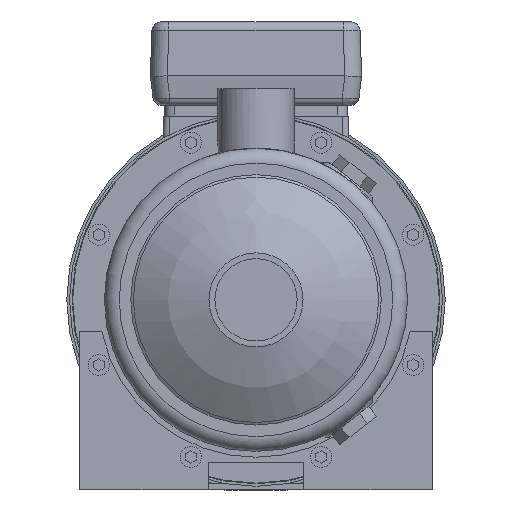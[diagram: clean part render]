
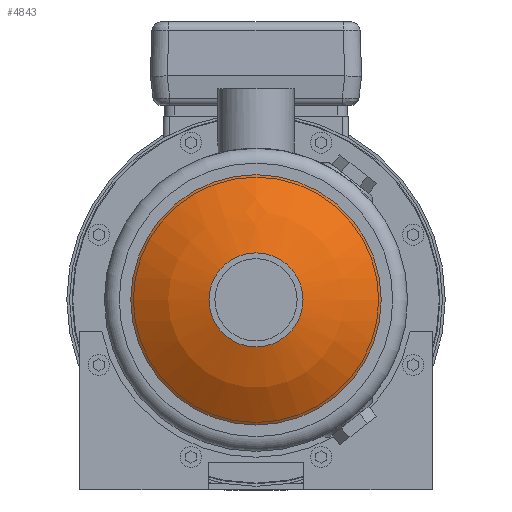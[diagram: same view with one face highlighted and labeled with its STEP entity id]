
A CAD part, left-side view. The second image highlights one B-rep face of the part: STEP entity #4843.
In plain terms, the highlighted spherical face has radius 100 mm.
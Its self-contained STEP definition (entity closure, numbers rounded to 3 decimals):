
#87=SPHERICAL_SURFACE('',#6501,100.);
#1102=ORIENTED_EDGE('',*,*,#2443,.T.);
#1103=ORIENTED_EDGE('',*,*,#2442,.F.);
#2442=EDGE_CURVE('',#3117,#3117,#3579,.T.);
#2443=EDGE_CURVE('',#3118,#3118,#3580,.T.);
#3117=VERTEX_POINT('',#8691);
#3118=VERTEX_POINT('',#8694);
#3579=CIRCLE('',#6500,22.25);
#3580=CIRCLE('',#6502,59.25);
#3802=EDGE_LOOP('',(#1102));
#3803=EDGE_LOOP('',(#1103));
#4240=FACE_BOUND('',#3802,.T.);
#4241=FACE_BOUND('',#3803,.T.);
#4843=ADVANCED_FACE('',(#4240,#4241),#87,.T.);
#6500=AXIS2_PLACEMENT_3D('',#8690,#7103,#7104);
#6501=AXIS2_PLACEMENT_3D('',#8692,#7105,#7106);
#6502=AXIS2_PLACEMENT_3D('',#8693,#7107,#7108);
#7103=DIRECTION('',(-1.,0.,0.));
#7104=DIRECTION('',(0.,0.,1.));
#7105=DIRECTION('',(-1.,0.,0.));
#7106=DIRECTION('',(0.,0.,1.));
#7107=DIRECTION('',(-1.,0.,0.));
#7108=DIRECTION('',(0.,0.,1.));
#8690=CARTESIAN_POINT('',(-91.293,0.,0.));
#8691=CARTESIAN_POINT('',(-91.293,0.,22.25));
#8692=CARTESIAN_POINT('',(6.2,0.,0.));
#8693=CARTESIAN_POINT('',(-74.357,0.,0.));
#8694=CARTESIAN_POINT('',(-74.357,0.,59.25));
